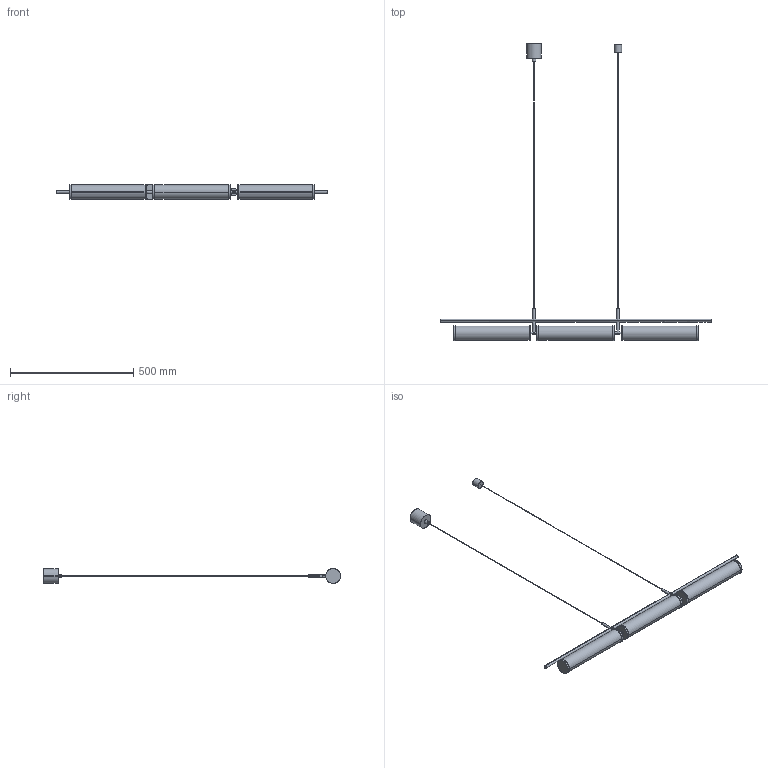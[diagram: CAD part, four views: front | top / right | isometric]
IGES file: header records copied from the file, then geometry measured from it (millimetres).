
Start section: SolidWorks IGES file using analytic representation for surfaces
Global section: file name: C:\Users\Agustin\Desktop\ENERO 2025\ISON OPAL\NUMU_C1343_L.IGS; native system: SolidWorks 2018; preprocessor: SolidWorks 2018; author: Agustin; date: 250826.095603; units: millimetre
Bounding box: 1100 x 1205 x 60 mm (x, y, z)
Surface area: 307375.1 mm2 (no closed solid volume)
Topology: 0 solids, 0 shells, 82 faces, 2326 edges, 2326 vertices
Faces by surface type: revolution 43, bspline 39
